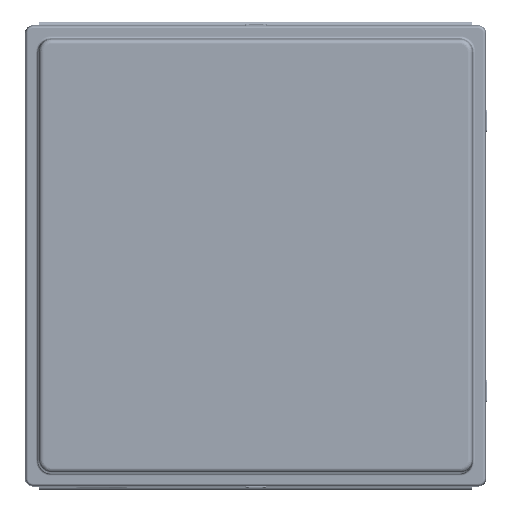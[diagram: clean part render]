
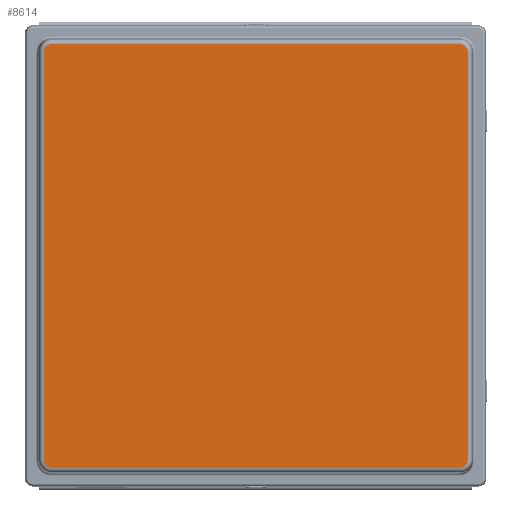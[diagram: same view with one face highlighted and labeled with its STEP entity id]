
A CAD part, front view. The second image highlights one B-rep face of the part: STEP entity #8614.
In plain terms, the highlighted planar face has unit normal (0, -1, 0).
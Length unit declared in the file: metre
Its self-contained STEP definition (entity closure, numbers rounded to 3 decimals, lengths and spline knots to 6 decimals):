
#8614 = ADVANCED_FACE( 'NONE', ( #17998 ), #17999, .F. );
#17998 = FACE_OUTER_BOUND( '', #36073, .T. );
#17999 = PLANE( '', #36074 );
#36073 = EDGE_LOOP( '', ( #66060, #66061, #66062, #66063, #66064, #66065, #66066, #66067 ) );
#36074 = AXIS2_PLACEMENT_3D( '', #66068, #66069, #66070 );
#66060 = ORIENTED_EDGE( '', *, *, #88523, .T. );
#66061 = ORIENTED_EDGE( '', *, *, #91762, .T. );
#66062 = ORIENTED_EDGE( '', *, *, #86864, .T. );
#66063 = ORIENTED_EDGE( '', *, *, #91763, .T. );
#66064 = ORIENTED_EDGE( '', *, *, #87923, .T. );
#66065 = ORIENTED_EDGE( '', *, *, #88882, .T. );
#66066 = ORIENTED_EDGE( '', *, *, #88831, .T. );
#66067 = ORIENTED_EDGE( '', *, *, #88063, .T. );
#66068 = CARTESIAN_POINT( '', ( -0.287731, -0.064262, 0.287731 ) );
#66069 = DIRECTION( '', ( 0., 1., 0. ) );
#66070 = DIRECTION( '', ( 1., 0., 0. ) );
#86864 = EDGE_CURVE( 'NONE', #101310, #101308, #101311, .T. );
#87923 = EDGE_CURVE( 'NONE', #103035, #103033, #103036, .T. );
#88063 = EDGE_CURVE( 'NONE', #103244, #103249, #103251, .T. );
#88523 = EDGE_CURVE( 'NONE', #103249, #103977, #103979, .T. );
#88831 = EDGE_CURVE( 'NONE', #104460, #103244, #104463, .T. );
#88882 = EDGE_CURVE( 'NONE', #103033, #104460, #104548, .T. );
#91762 = EDGE_CURVE( 'NONE', #103977, #101310, #108752, .T. );
#91763 = EDGE_CURVE( 'NONE', #101308, #103035, #108753, .T. );
#101308 = VERTEX_POINT( 'NONE', #127815 );
#101310 = VERTEX_POINT( 'NONE', #127817 );
#101311 = CIRCLE( '', #127818, 0.010987 );
#103033 = VERTEX_POINT( 'NONE', #131935 );
#103035 = VERTEX_POINT( 'NONE', #131937 );
#103036 = CIRCLE( '', #131938, 0.010987 );
#103244 = VERTEX_POINT( 'NONE', #132640 );
#103249 = VERTEX_POINT( 'NONE', #132646 );
#103251 = LINE( '', #132648, #132649 );
#103977 = VERTEX_POINT( 'NONE', #134687 );
#103979 = CIRCLE( '', #134689, 0.010987 );
#104460 = VERTEX_POINT( 'NONE', #135843 );
#104463 = CIRCLE( '', #135846, 0.010987 );
#104548 = LINE( '', #136094, #136095 );
#108752 = LINE( '', #146805, #146806 );
#108753 = LINE( '', #146807, #146808 );
#127815 = CARTESIAN_POINT( '', ( -0.298719, -0.064262, 0.287731 ) );
#127817 = CARTESIAN_POINT( '', ( -0.287731, -0.064262, 0.298719 ) );
#127818 = AXIS2_PLACEMENT_3D( '', #162709, #162710, #162711 );
#131935 = CARTESIAN_POINT( '', ( -0.287731, -0.064262, -0.298719 ) );
#131937 = CARTESIAN_POINT( '', ( -0.298719, -0.064262, -0.287731 ) );
#131938 = AXIS2_PLACEMENT_3D( '', #163899, #163900, #163901 );
#132640 = CARTESIAN_POINT( '', ( 0.298719, -0.064262, -0.287731 ) );
#132646 = CARTESIAN_POINT( '', ( 0.298719, -0.064262, 0.287731 ) );
#132648 = CARTESIAN_POINT( '', ( 0.298719, -0.064262, 0.287731 ) );
#132649 = VECTOR( '', #164040, 1. );
#134687 = CARTESIAN_POINT( '', ( 0.287731, -0.064262, 0.298719 ) );
#134689 = AXIS2_PLACEMENT_3D( '', #164492, #164493, #164494 );
#135843 = CARTESIAN_POINT( '', ( 0.287731, -0.064262, -0.298719 ) );
#135846 = AXIS2_PLACEMENT_3D( '', #164843, #164844, #164845 );
#136094 = CARTESIAN_POINT( '', ( -0.287731, -0.064262, -0.298719 ) );
#136095 = VECTOR( '', #164896, 1. );
#146805 = CARTESIAN_POINT( '', ( -0.287731, -0.064262, 0.298719 ) );
#146806 = VECTOR( '', #168261, 1. );
#146807 = CARTESIAN_POINT( '', ( -0.298719, -0.064262, 0.287731 ) );
#146808 = VECTOR( '', #168262, 1. );
#162709 = CARTESIAN_POINT( '', ( -0.287731, -0.064262, 0.287731 ) );
#162710 = DIRECTION( '', ( 0., -1., 0. ) );
#162711 = DIRECTION( '', ( 0., 0., 1. ) );
#163899 = CARTESIAN_POINT( '', ( -0.287731, -0.064262, -0.287731 ) );
#163900 = DIRECTION( '', ( 0., -1., 0. ) );
#163901 = DIRECTION( '', ( 0., 0., 1. ) );
#164040 = DIRECTION( '', ( 0., 0., 1. ) );
#164492 = CARTESIAN_POINT( '', ( 0.287731, -0.064262, 0.287731 ) );
#164493 = DIRECTION( '', ( 0., -1., 0. ) );
#164494 = DIRECTION( '', ( 0., 0., 1. ) );
#164843 = CARTESIAN_POINT( '', ( 0.287731, -0.064262, -0.287731 ) );
#164844 = DIRECTION( '', ( 0., -1., 0. ) );
#164845 = DIRECTION( '', ( 0., 0., 1. ) );
#164896 = DIRECTION( '', ( 1., 0., 0. ) );
#168261 = DIRECTION( '', ( -1., 0., 0. ) );
#168262 = DIRECTION( '', ( 0., 0., -1. ) );
